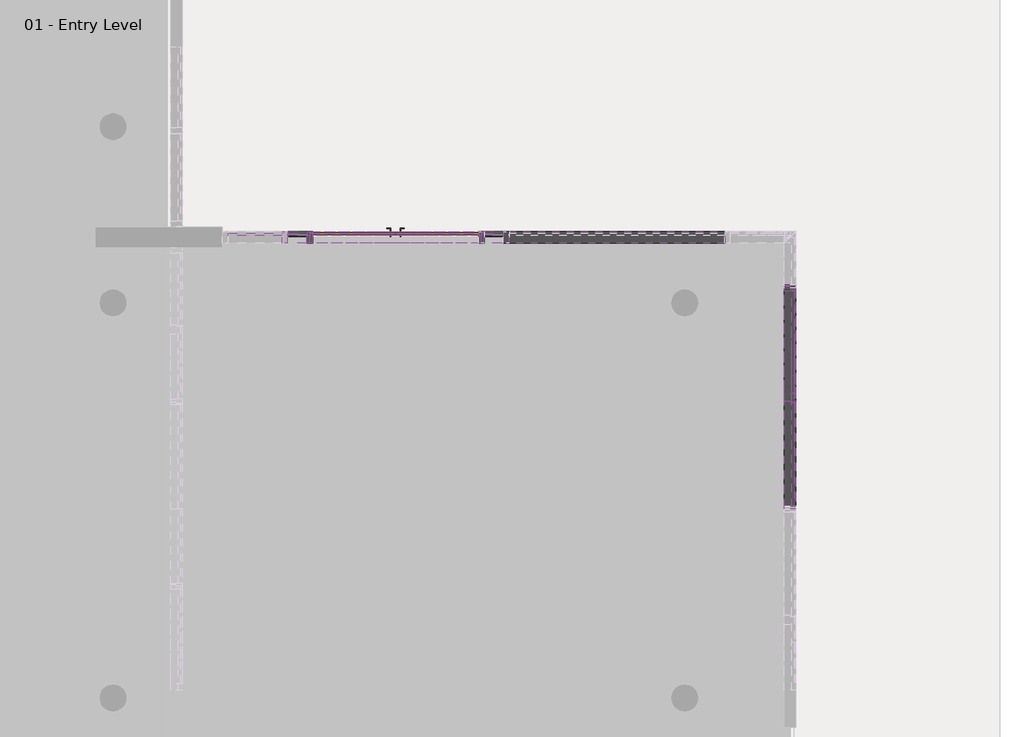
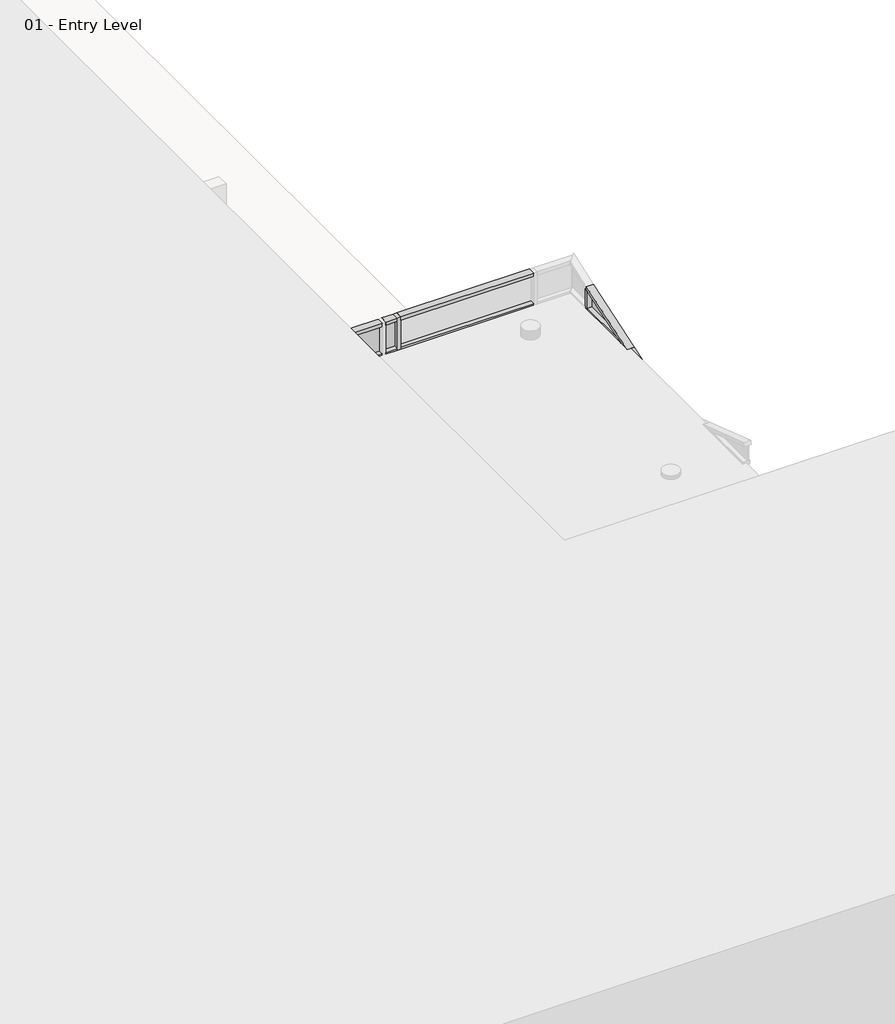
# One storey, part 16 of 35: 94 members, 27 plates, 1 door.
"""IFC4 building model written with IfcOpenShell, lengths in millimetres."""

from ifc_helpers import new_model, si_unit, origin, place, context, project, spatial, transform, mapped, element, save
from components import curtain_wall_dbl_glass_curtain_wall_dbl_glass_a5de0235, member_6e77e263, member_89bfb2f9, member_b2bde9e6, member_5d67b9fc, member_a5966c2a, member_aa396729, member_420b45ef, member_d60e8053, member_51dbde35, member_80bb9b3a, member_75d1e245, member_85cc6aa7, member_474f9ece, member_fce4fd76, member_056e3271, member_2fae0574, member_51170729, system_panel_glazed_1068a10c, system_panel_glazed_a178916c, system_panel_glazed_0805a858, system_panel_glazed_439dd39a, system_panel_glazed_7ab8f380, system_panel_glazed_9c9336f7, system_panel_glazed_ea9774ea, system_panel_glazed_5992a3c5, system_panel_glazed_079f77b7, system_panel_glazed_4e36cd67, system_panel_glazed_43cf15d5

model = new_model("IFC4")

# Units and contexts
model_context = context("Model", 3, world=origin())
ifc_project = project(units=[si_unit("LENGTHUNIT", "METRE", prefix="MILLI")], contexts=[model_context])

# Site, building, storey
site = spatial("IfcSite", under=ifc_project)
building = spatial("IfcBuilding", under=site)
storey = spatial("IfcBuildingStorey", under=building, Name="01 - Entry Level", Elevation=0.0)

# Door
placement = place(None, origin())
curtain_wall_dbl_glass_curtain_wall_dbl_glass_shape = curtain_wall_dbl_glass_curtain_wall_dbl_glass_a5de0235(model_context)
element("IfcDoor", 1, ObjectType="Curtain Wall Dbl Glass : Curtain Wall Dbl Glass", at=placement, inside=storey, context=model_context, shape_type="MappedRepresentation", body=[
    mapped(curtain_wall_dbl_glass_curtain_wall_dbl_glass_shape, transform((19598.7615197, 22545.6, 0.0), x_axis=(-1.0, 0.0, 0.0), y_axis=(0.0, -1.0, 0.0), z_axis=(0.0, 0.0, 1.0))),
])

# Members
member_shape = member_6e77e263(model_context)
element("IfcMember", 2, ObjectType="Rectangular Mullion : 2.5\" x 5\" rectangular", at=placement, inside=storey, context=model_context, shape_type="MappedRepresentation", body=[
    mapped(member_shape, transform((20817.9615197, 22545.6, 0.0), x_axis=(-1.0, 0.0, 0.0), y_axis=(0.0, 1.0, 0.0), z_axis=(0.0, 0.0, -1.0))),
])
element("IfcMember", 3, ObjectType="Rectangular Mullion : 2.5\" x 5\" rectangular", at=placement, inside=storey, context=model_context, shape_type="MappedRepresentation", body=[
    mapped(member_shape, transform((23947.0115197, 21986.8, 0.0), x_axis=(0.0, 1.0, 0.0), y_axis=(1.0, 0.0, 0.0), z_axis=(0.0, 0.0, -1.0))),
])
element("IfcMember", 4, ObjectType="Rectangular Mullion : 2.5\" x 5\" rectangular", at=placement, inside=storey, context=model_context, shape_type="MappedRepresentation", body=[
    mapped(member_shape, transform((20817.9615197, 22545.6, 609.6), x_axis=(-1.0, 0.0, 0.0), y_axis=(0.0, 1.0, 0.0), z_axis=(0.0, 0.0, -1.0))),
])
element("IfcMember", 5, ObjectType="Rectangular Mullion : 2.5\" x 5\" rectangular", at=placement, inside=storey, context=model_context, shape_type="MappedRepresentation", body=[
    mapped(member_shape, transform((20817.9615197, 22545.6, 1219.2), x_axis=(-1.0, 0.0, 0.0), y_axis=(0.0, 1.0, 0.0), z_axis=(0.0, 0.0, -1.0))),
])
element("IfcMember", 6, ObjectType="Rectangular Mullion : 2.5\" x 5\" rectangular", at=placement, inside=storey, context=model_context, shape_type="MappedRepresentation", body=[
    mapped(member_shape, transform((20817.9615197, 22545.6, 2438.4), x_axis=(-1.0, 0.0, 0.0), y_axis=(0.0, 1.0, 0.0), z_axis=(0.0, 0.0, -1.0))),
])
element("IfcMember", 7, ObjectType="Rectangular Mullion : 2.5\" x 5\" rectangular", at=placement, inside=storey, context=model_context, shape_type="MappedRepresentation", body=[
    mapped(member_shape, transform((20817.9615197, 22545.6, 3048.0), x_axis=(-1.0, 0.0, 0.0), y_axis=(0.0, 1.0, 0.0), z_axis=(0.0, 0.0, -1.0))),
])
element("IfcMember", 8, ObjectType="Rectangular Mullion : 2.5\" x 5\" rectangular", at=placement, inside=storey, context=model_context, shape_type="MappedRepresentation", body=[
    mapped(member_shape, transform((23947.0115197, 21986.8, 609.6), x_axis=(0.0, 1.0, 0.0), y_axis=(1.0, 0.0, 0.0), z_axis=(0.0, 0.0, -1.0))),
])
element("IfcMember", 9, ObjectType="Rectangular Mullion : 2.5\" x 5\" rectangular", at=placement, inside=storey, context=model_context, shape_type="MappedRepresentation", body=[
    mapped(member_shape, transform((23947.0115197, 21986.8, 1219.2), x_axis=(0.0, 1.0, 0.0), y_axis=(1.0, 0.0, 0.0), z_axis=(0.0, 0.0, -1.0))),
])
element("IfcMember", 10, ObjectType="Rectangular Mullion : 2.5\" x 5\" rectangular", at=placement, inside=storey, context=model_context, shape_type="MappedRepresentation", body=[
    mapped(member_shape, transform((23947.0115197, 21986.8, 1828.8), x_axis=(0.0, 1.0, 0.0), y_axis=(1.0, 0.0, 0.0), z_axis=(0.0, 0.0, -1.0))),
])
element("IfcMember", 11, ObjectType="Rectangular Mullion : 2.5\" x 5\" rectangular", at=placement, inside=storey, context=model_context, shape_type="MappedRepresentation", body=[
    mapped(member_shape, transform((23947.0115197, 21986.8, 2438.4), x_axis=(0.0, 1.0, 0.0), y_axis=(1.0, 0.0, 0.0), z_axis=(0.0, 0.0, -1.0))),
])
element("IfcMember", 12, ObjectType="Rectangular Mullion : 2.5\" x 5\" rectangular", at=placement, inside=storey, context=model_context, shape_type="MappedRepresentation", body=[
    mapped(member_shape, transform((23947.0115197, 21986.8, 3048.0), x_axis=(0.0, 1.0, 0.0), y_axis=(1.0, 0.0, 0.0), z_axis=(0.0, 0.0, -1.0))),
])
element("IfcMember", 13, ObjectType="Rectangular Mullion : 2.5\" x 5\" rectangular", at=placement, inside=storey, context=model_context, shape_type="MappedRepresentation", body=[
    mapped(member_shape, transform((23947.0115197, 21986.8, 3657.6), x_axis=(0.0, 1.0, 0.0), y_axis=(1.0, 0.0, 0.0), z_axis=(0.0, 0.0, -1.0))),
])
element("IfcMember", 14, ObjectType="Rectangular Mullion : 2.5\" x 5\" rectangular", at=placement, inside=storey, context=model_context, shape_type="MappedRepresentation", body=[
    mapped(member_shape, transform((23947.0115197, 21986.8, 4267.2), x_axis=(0.0, 1.0, 0.0), y_axis=(1.0, 0.0, 0.0), z_axis=(0.0, 0.0, -1.0))),
])
element("IfcMember", 15, ObjectType="Rectangular Mullion : 2.5\" x 5\" rectangular", at=placement, inside=storey, context=model_context, shape_type="MappedRepresentation", body=[
    mapped(member_shape, transform((23947.0115197, 21986.8, 4876.8), x_axis=(0.0, 1.0, 0.0), y_axis=(1.0, 0.0, 0.0), z_axis=(0.0, 0.0, -1.0))),
])
element("IfcMember", 16, ObjectType="Rectangular Mullion : 2.5\" x 5\" rectangular", at=placement, inside=storey, context=model_context, shape_type="MappedRepresentation", body=[
    mapped(member_shape, transform((23947.0115197, 21986.8, 5486.4), x_axis=(0.0, 1.0, 0.0), y_axis=(1.0, 0.0, 0.0), z_axis=(0.0, 0.0, -1.0))),
])
element("IfcMember", 17, ObjectType="Rectangular Mullion : 2.5\" x 5\" rectangular", at=placement, inside=storey, context=model_context, shape_type="MappedRepresentation", body=[
    mapped(member_shape, transform((23947.0115197, 21986.8, 6096.0), x_axis=(0.0, 1.0, 0.0), y_axis=(1.0, 0.0, 0.0), z_axis=(0.0, 0.0, -1.0))),
])
element("IfcMember", 18, ObjectType="Rectangular Mullion : 2.5\" x 5\" rectangular", at=placement, inside=storey, context=model_context, shape_type="MappedRepresentation", body=[
    mapped(member_shape, transform((20817.9615197, 22545.6, 3657.6), x_axis=(-1.0, 0.0, 0.0), y_axis=(0.0, 1.0, 0.0), z_axis=(0.0, 0.0, -1.0))),
])
element("IfcMember", 19, ObjectType="Rectangular Mullion : 2.5\" x 5\" rectangular", at=placement, inside=storey, context=model_context, shape_type="MappedRepresentation", body=[
    mapped(member_shape, transform((20817.9615197, 22545.6, 4267.2), x_axis=(-1.0, 0.0, 0.0), y_axis=(0.0, 1.0, 0.0), z_axis=(0.0, 0.0, -1.0))),
])
element("IfcMember", 20, ObjectType="Rectangular Mullion : 2.5\" x 5\" rectangular", at=placement, inside=storey, context=model_context, shape_type="MappedRepresentation", body=[
    mapped(member_shape, transform((20817.9615197, 22545.6, 4876.8), x_axis=(-1.0, 0.0, 0.0), y_axis=(0.0, 1.0, 0.0), z_axis=(0.0, 0.0, -1.0))),
])
element("IfcMember", 21, ObjectType="Rectangular Mullion : 2.5\" x 5\" rectangular", at=placement, inside=storey, context=model_context, shape_type="MappedRepresentation", body=[
    mapped(member_shape, transform((20817.9615197, 22545.6, 5486.4), x_axis=(-1.0, 0.0, 0.0), y_axis=(0.0, 1.0, 0.0), z_axis=(0.0, 0.0, -1.0))),
])
element("IfcMember", 22, ObjectType="Rectangular Mullion : 2.5\" x 5\" rectangular", at=placement, inside=storey, context=model_context, shape_type="MappedRepresentation", body=[
    mapped(member_shape, transform((20817.9615197, 22545.6, 6096.0), x_axis=(-1.0, 0.0, 0.0), y_axis=(0.0, 1.0, 0.0), z_axis=(0.0, 0.0, -1.0))),
])
element("IfcMember", 23, ObjectType="Rectangular Mullion : 2.5\" x 5\" rectangular", at=placement, inside=storey, context=model_context, shape_type="MappedRepresentation", body=[
    mapped(member_shape, transform((18379.5615197, 22545.6, 3657.6), x_axis=(-1.0, 0.0, 0.0), y_axis=(0.0, 1.0, 0.0), z_axis=(0.0, 0.0, -1.0))),
])
element("IfcMember", 24, ObjectType="Rectangular Mullion : 2.5\" x 5\" rectangular", at=placement, inside=storey, context=model_context, shape_type="MappedRepresentation", body=[
    mapped(member_shape, transform((18379.5615197, 22545.6, 4267.2), x_axis=(-1.0, 0.0, 0.0), y_axis=(0.0, 1.0, 0.0), z_axis=(0.0, 0.0, -1.0))),
])
element("IfcMember", 25, ObjectType="Rectangular Mullion : 2.5\" x 5\" rectangular", at=placement, inside=storey, context=model_context, shape_type="MappedRepresentation", body=[
    mapped(member_shape, transform((18379.5615197, 22545.6, 4876.8), x_axis=(-1.0, 0.0, 0.0), y_axis=(0.0, 1.0, 0.0), z_axis=(0.0, 0.0, -1.0))),
])
element("IfcMember", 26, ObjectType="Rectangular Mullion : 2.5\" x 5\" rectangular", at=placement, inside=storey, context=model_context, shape_type="MappedRepresentation", body=[
    mapped(member_shape, transform((18379.5615197, 22545.6, 5486.4), x_axis=(-1.0, 0.0, 0.0), y_axis=(0.0, 1.0, 0.0), z_axis=(0.0, 0.0, -1.0))),
])
element("IfcMember", 27, ObjectType="Rectangular Mullion : 2.5\" x 5\" rectangular", at=placement, inside=storey, context=model_context, shape_type="MappedRepresentation", body=[
    mapped(member_shape, transform((18379.5615197, 22545.6, 6096.0), x_axis=(-1.0, 0.0, 0.0), y_axis=(0.0, 1.0, 0.0), z_axis=(0.0, 0.0, -1.0))),
])
member_2_shape = member_89bfb2f9(model_context)
element("IfcMember", 28, ObjectType="Rectangular Mullion : 2.5\" x 5\" rectangular", at=placement, inside=storey, context=model_context, shape_type="MappedRepresentation", body=[
    mapped(member_2_shape, transform((20849.7115197, 22545.6, 609.6), x_axis=(0.0, 0.0, 1.0), y_axis=(0.0, 1.0, 0.0), z_axis=(-1.0, 0.0, 0.0))),
])
element("IfcMember", 29, ObjectType="Rectangular Mullion : 2.5\" x 5\" rectangular", at=placement, inside=storey, context=model_context, shape_type="MappedRepresentation", body=[
    mapped(member_2_shape, transform((20849.7115197, 22545.6, 1219.2), x_axis=(0.0, 0.0, 1.0), y_axis=(0.0, 1.0, 0.0), z_axis=(-1.0, 0.0, 0.0))),
])
element("IfcMember", 30, ObjectType="Rectangular Mullion : 2.5\" x 5\" rectangular", at=placement, inside=storey, context=model_context, shape_type="MappedRepresentation", body=[
    mapped(member_2_shape, transform((20849.7115197, 22545.6, 1828.8), x_axis=(0.0, 0.0, 1.0), y_axis=(0.0, 1.0, 0.0), z_axis=(-1.0, 0.0, 0.0))),
])
element("IfcMember", 31, ObjectType="Rectangular Mullion : 2.5\" x 5\" rectangular", at=placement, inside=storey, context=model_context, shape_type="MappedRepresentation", body=[
    mapped(member_2_shape, transform((20849.7115197, 22545.6, 2438.4), x_axis=(0.0, 0.0, 1.0), y_axis=(0.0, 1.0, 0.0), z_axis=(-1.0, 0.0, 0.0))),
])
element("IfcMember", 32, ObjectType="Rectangular Mullion : 2.5\" x 5\" rectangular", at=placement, inside=storey, context=model_context, shape_type="MappedRepresentation", body=[
    mapped(member_2_shape, transform((20849.7115197, 22545.6, 3048.0), x_axis=(0.0, 0.0, 1.0), y_axis=(0.0, 1.0, 0.0), z_axis=(-1.0, 0.0, 0.0))),
])
element("IfcMember", 33, ObjectType="Rectangular Mullion : 2.5\" x 5\" rectangular", at=placement, inside=storey, context=model_context, shape_type="MappedRepresentation", body=[
    mapped(member_2_shape, transform((23947.0115197, 21955.05, 609.6), x_axis=(0.0, 0.0, 1.0), y_axis=(1.0, 0.0, 0.0), z_axis=(0.0, 1.0, 0.0))),
])
element("IfcMember", 34, ObjectType="Rectangular Mullion : 2.5\" x 5\" rectangular", at=placement, inside=storey, context=model_context, shape_type="MappedRepresentation", body=[
    mapped(member_2_shape, transform((23947.0115197, 21955.05, 1219.2), x_axis=(0.0, 0.0, 1.0), y_axis=(1.0, 0.0, 0.0), z_axis=(0.0, 1.0, 0.0))),
])
element("IfcMember", 35, ObjectType="Rectangular Mullion : 2.5\" x 5\" rectangular", at=placement, inside=storey, context=model_context, shape_type="MappedRepresentation", body=[
    mapped(member_2_shape, transform((23947.0115197, 21955.05, 1828.8), x_axis=(0.0, 0.0, 1.0), y_axis=(1.0, 0.0, 0.0), z_axis=(0.0, 1.0, 0.0))),
])
element("IfcMember", 36, ObjectType="Rectangular Mullion : 2.5\" x 5\" rectangular", at=placement, inside=storey, context=model_context, shape_type="MappedRepresentation", body=[
    mapped(member_2_shape, transform((23947.0115197, 21955.05, 2438.4), x_axis=(0.0, 0.0, 1.0), y_axis=(1.0, 0.0, 0.0), z_axis=(0.0, 1.0, 0.0))),
])
element("IfcMember", 37, ObjectType="Rectangular Mullion : 2.5\" x 5\" rectangular", at=placement, inside=storey, context=model_context, shape_type="MappedRepresentation", body=[
    mapped(member_2_shape, transform((23947.0115197, 21955.05, 3048.0), x_axis=(0.0, 0.0, 1.0), y_axis=(1.0, 0.0, 0.0), z_axis=(0.0, 1.0, 0.0))),
])
element("IfcMember", 38, ObjectType="Rectangular Mullion : 2.5\" x 5\" rectangular", at=placement, inside=storey, context=model_context, shape_type="MappedRepresentation", body=[
    mapped(member_2_shape, transform((23947.0115197, 21955.05, 3657.6), x_axis=(0.0, 0.0, 1.0), y_axis=(1.0, 0.0, 0.0), z_axis=(0.0, 1.0, 0.0))),
])
element("IfcMember", 39, ObjectType="Rectangular Mullion : 2.5\" x 5\" rectangular", at=placement, inside=storey, context=model_context, shape_type="MappedRepresentation", body=[
    mapped(member_2_shape, transform((23947.0115197, 21955.05, 4267.2), x_axis=(0.0, 0.0, 1.0), y_axis=(1.0, 0.0, 0.0), z_axis=(0.0, 1.0, 0.0))),
])
element("IfcMember", 40, ObjectType="Rectangular Mullion : 2.5\" x 5\" rectangular", at=placement, inside=storey, context=model_context, shape_type="MappedRepresentation", body=[
    mapped(member_2_shape, transform((23947.0115197, 21955.05, 4876.8), x_axis=(0.0, 0.0, 1.0), y_axis=(1.0, 0.0, 0.0), z_axis=(0.0, 1.0, 0.0))),
])
element("IfcMember", 41, ObjectType="Rectangular Mullion : 2.5\" x 5\" rectangular", at=placement, inside=storey, context=model_context, shape_type="MappedRepresentation", body=[
    mapped(member_2_shape, transform((23947.0115197, 21955.05, 5486.4), x_axis=(0.0, 0.0, 1.0), y_axis=(1.0, 0.0, 0.0), z_axis=(0.0, 1.0, 0.0))),
])
element("IfcMember", 42, ObjectType="Rectangular Mullion : 2.5\" x 5\" rectangular", at=placement, inside=storey, context=model_context, shape_type="MappedRepresentation", body=[
    mapped(member_2_shape, transform((23947.0115197, 21955.05, 6096.0), x_axis=(0.0, 0.0, 1.0), y_axis=(1.0, 0.0, 0.0), z_axis=(0.0, 1.0, 0.0))),
])
element("IfcMember", 43, ObjectType="Rectangular Mullion : 2.5\" x 5\" rectangular", at=placement, inside=storey, context=model_context, shape_type="MappedRepresentation", body=[
    mapped(member_2_shape, transform((20849.7115197, 22545.6, 3657.6), x_axis=(0.0, 0.0, 1.0), y_axis=(0.0, 1.0, 0.0), z_axis=(-1.0, 0.0, 0.0))),
])
element("IfcMember", 44, ObjectType="Rectangular Mullion : 2.5\" x 5\" rectangular", at=placement, inside=storey, context=model_context, shape_type="MappedRepresentation", body=[
    mapped(member_2_shape, transform((20849.7115197, 22545.6, 4267.2), x_axis=(0.0, 0.0, 1.0), y_axis=(0.0, 1.0, 0.0), z_axis=(-1.0, 0.0, 0.0))),
])
element("IfcMember", 45, ObjectType="Rectangular Mullion : 2.5\" x 5\" rectangular", at=placement, inside=storey, context=model_context, shape_type="MappedRepresentation", body=[
    mapped(member_2_shape, transform((20849.7115197, 22545.6, 4876.8), x_axis=(0.0, 0.0, 1.0), y_axis=(0.0, 1.0, 0.0), z_axis=(-1.0, 0.0, 0.0))),
])
element("IfcMember", 46, ObjectType="Rectangular Mullion : 2.5\" x 5\" rectangular", at=placement, inside=storey, context=model_context, shape_type="MappedRepresentation", body=[
    mapped(member_2_shape, transform((20849.7115197, 22545.6, 5486.4), x_axis=(0.0, 0.0, 1.0), y_axis=(0.0, 1.0, 0.0), z_axis=(-1.0, 0.0, 0.0))),
])
element("IfcMember", 47, ObjectType="Rectangular Mullion : 2.5\" x 5\" rectangular", at=placement, inside=storey, context=model_context, shape_type="MappedRepresentation", body=[
    mapped(member_2_shape, transform((20849.7115197, 22545.6, 6096.0), x_axis=(0.0, 0.0, 1.0), y_axis=(0.0, 1.0, 0.0), z_axis=(-1.0, 0.0, 0.0))),
])
element("IfcMember", 48, ObjectType="Rectangular Mullion : 2.5\" x 5\" rectangular", at=placement, inside=storey, context=model_context, shape_type="MappedRepresentation", body=[
    mapped(member_2_shape, transform((20849.7115197, 22545.6, 6705.6), x_axis=(0.0, 0.0, 1.0), y_axis=(0.0, 1.0, 0.0), z_axis=(-1.0, 0.0, 0.0))),
])
member_3_shape = member_b2bde9e6(model_context)
element("IfcMember", 49, ObjectType="Rectangular Mullion : 2.5\" x 5\" rectangular", at=placement, inside=storey, context=model_context, shape_type="MappedRepresentation", body=[
    mapped(member_3_shape, transform((20849.7115197, 22545.6, 7315.2), x_axis=(0.0, 0.0, 1.0), y_axis=(0.0, 1.0, 0.0), z_axis=(-1.0, 0.0, 0.0))),
])
member_4_shape = member_5d67b9fc(model_context)
element("IfcMember", 50, ObjectType="Rectangular Mullion : 2.5\" x 5\" rectangular", at=placement, inside=storey, context=model_context, shape_type="MappedRepresentation", body=[
    mapped(member_4_shape, transform((18379.5615197, 22545.6, 2165.35), x_axis=(-1.0, 0.0, 0.0), y_axis=(0.0, 1.0, 0.0), z_axis=(0.0, 0.0, -1.0))),
])
member_5_shape = member_a5966c2a(model_context)
element("IfcMember", 51, ObjectType="Rectangular Mullion : 2.5\" x 5\" rectangular", at=placement, inside=storey, context=model_context, shape_type="MappedRepresentation", body=[
    mapped(member_5_shape, transform((20576.6615197, 22545.6, 2438.4), x_axis=(0.0, 0.0, 1.0), y_axis=(0.0, 1.0, 0.0), z_axis=(-1.0, 0.0, 0.0))),
])
element("IfcMember", 52, ObjectType="Rectangular Mullion : 2.5\" x 5\" rectangular", at=placement, inside=storey, context=model_context, shape_type="MappedRepresentation", body=[
    mapped(member_5_shape, transform((20576.6615197, 22545.6, 6705.6), x_axis=(0.0, 0.0, 1.0), y_axis=(0.0, 1.0, 0.0), z_axis=(-1.0, 0.0, 0.0))),
])
element("IfcMember", 53, ObjectType="Rectangular Mullion : 2.5\" x 5\" rectangular", at=placement, inside=storey, context=model_context, shape_type="MappedRepresentation", body=[
    mapped(member_5_shape, transform((18411.3115197, 22545.6, 2438.4), x_axis=(0.0, 0.0, 1.0), y_axis=(0.0, 1.0, 0.0), z_axis=(-1.0, 0.0, 0.0))),
])
element("IfcMember", 54, ObjectType="Rectangular Mullion : 2.5\" x 5\" rectangular", at=placement, inside=storey, context=model_context, shape_type="MappedRepresentation", body=[
    mapped(member_5_shape, transform((18411.3115197, 22545.6, 6705.6), x_axis=(0.0, 0.0, 1.0), y_axis=(0.0, 1.0, 0.0), z_axis=(-1.0, 0.0, 0.0))),
])
member_6_shape = member_aa396729(model_context)
element("IfcMember", 55, ObjectType="Rectangular Mullion : 2.5\" x 5\" rectangular", at=placement, inside=storey, context=model_context, shape_type="MappedRepresentation", body=[
    mapped(member_6_shape, transform((20544.9115197, 22545.6, 3048.0), x_axis=(0.0, 0.0, 1.0), y_axis=(0.0, 1.0, 0.0), z_axis=(-1.0, 0.0, 0.0))),
])
element("IfcMember", 56, ObjectType="Rectangular Mullion : 2.5\" x 5\" rectangular", at=placement, inside=storey, context=model_context, shape_type="MappedRepresentation", body=[
    mapped(member_6_shape, transform((20544.9115197, 22545.6, 3657.6), x_axis=(0.0, 0.0, 1.0), y_axis=(0.0, 1.0, 0.0), z_axis=(-1.0, 0.0, 0.0))),
])
element("IfcMember", 57, ObjectType="Rectangular Mullion : 2.5\" x 5\" rectangular", at=placement, inside=storey, context=model_context, shape_type="MappedRepresentation", body=[
    mapped(member_6_shape, transform((20544.9115197, 22545.6, 4267.2), x_axis=(0.0, 0.0, 1.0), y_axis=(0.0, 1.0, 0.0), z_axis=(-1.0, 0.0, 0.0))),
])
element("IfcMember", 58, ObjectType="Rectangular Mullion : 2.5\" x 5\" rectangular", at=placement, inside=storey, context=model_context, shape_type="MappedRepresentation", body=[
    mapped(member_6_shape, transform((20544.9115197, 22545.6, 4876.8), x_axis=(0.0, 0.0, 1.0), y_axis=(0.0, 1.0, 0.0), z_axis=(-1.0, 0.0, 0.0))),
])
element("IfcMember", 59, ObjectType="Rectangular Mullion : 2.5\" x 5\" rectangular", at=placement, inside=storey, context=model_context, shape_type="MappedRepresentation", body=[
    mapped(member_6_shape, transform((20544.9115197, 22545.6, 5486.4), x_axis=(0.0, 0.0, 1.0), y_axis=(0.0, 1.0, 0.0), z_axis=(-1.0, 0.0, 0.0))),
])
element("IfcMember", 60, ObjectType="Rectangular Mullion : 2.5\" x 5\" rectangular", at=placement, inside=storey, context=model_context, shape_type="MappedRepresentation", body=[
    mapped(member_6_shape, transform((20544.9115197, 22545.6, 6096.0), x_axis=(0.0, 0.0, 1.0), y_axis=(0.0, 1.0, 0.0), z_axis=(-1.0, 0.0, 0.0))),
])
member_7_shape = member_420b45ef(model_context)
element("IfcMember", 61, ObjectType="Rectangular Mullion : 2.5\" x 5\" rectangular", at=placement, inside=storey, context=model_context, shape_type="MappedRepresentation", body=[
    mapped(member_7_shape, transform((20786.2115197, 22545.6, 0.0), x_axis=(0.0, 0.0, -1.0), y_axis=(0.0, 1.0, 0.0), z_axis=(1.0, 0.0, 0.0))),
])
element("IfcMember", 62, ObjectType="Rectangular Mullion : 2.5\" x 5\" rectangular", at=placement, inside=storey, context=model_context, shape_type="MappedRepresentation", body=[
    mapped(member_7_shape, transform((18620.8615197, 22545.6, 0.0), x_axis=(0.0, 0.0, -1.0), y_axis=(0.0, 1.0, 0.0), z_axis=(1.0, 0.0, 0.0))),
])
element("IfcMember", 63, ObjectType="Rectangular Mullion : 2.5\" x 5\" rectangular", at=placement, inside=storey, context=model_context, shape_type="MappedRepresentation", body=[
    mapped(member_6_shape, transform((18411.3115197, 22545.6, 3048.0), x_axis=(0.0, 0.0, 1.0), y_axis=(0.0, 1.0, 0.0), z_axis=(-1.0, 0.0, 0.0))),
])
element("IfcMember", 64, ObjectType="Rectangular Mullion : 2.5\" x 5\" rectangular", at=placement, inside=storey, context=model_context, shape_type="MappedRepresentation", body=[
    mapped(member_6_shape, transform((18411.3115197, 22545.6, 3657.6), x_axis=(0.0, 0.0, 1.0), y_axis=(0.0, 1.0, 0.0), z_axis=(-1.0, 0.0, 0.0))),
])
element("IfcMember", 65, ObjectType="Rectangular Mullion : 2.5\" x 5\" rectangular", at=placement, inside=storey, context=model_context, shape_type="MappedRepresentation", body=[
    mapped(member_6_shape, transform((18411.3115197, 22545.6, 4267.2), x_axis=(0.0, 0.0, 1.0), y_axis=(0.0, 1.0, 0.0), z_axis=(-1.0, 0.0, 0.0))),
])
element("IfcMember", 66, ObjectType="Rectangular Mullion : 2.5\" x 5\" rectangular", at=placement, inside=storey, context=model_context, shape_type="MappedRepresentation", body=[
    mapped(member_6_shape, transform((18411.3115197, 22545.6, 4876.8), x_axis=(0.0, 0.0, 1.0), y_axis=(0.0, 1.0, 0.0), z_axis=(-1.0, 0.0, 0.0))),
])
element("IfcMember", 67, ObjectType="Rectangular Mullion : 2.5\" x 5\" rectangular", at=placement, inside=storey, context=model_context, shape_type="MappedRepresentation", body=[
    mapped(member_6_shape, transform((18411.3115197, 22545.6, 5486.4), x_axis=(0.0, 0.0, 1.0), y_axis=(0.0, 1.0, 0.0), z_axis=(-1.0, 0.0, 0.0))),
])
element("IfcMember", 68, ObjectType="Rectangular Mullion : 2.5\" x 5\" rectangular", at=placement, inside=storey, context=model_context, shape_type="MappedRepresentation", body=[
    mapped(member_6_shape, transform((18411.3115197, 22545.6, 6096.0), x_axis=(0.0, 0.0, 1.0), y_axis=(0.0, 1.0, 0.0), z_axis=(-1.0, 0.0, 0.0))),
])
member_8_shape = member_d60e8053(model_context)
element("IfcMember", 69, ObjectType="Rectangular Mullion : 2.5\" x 5\" rectangular", at=placement, inside=storey, context=model_context, shape_type="MappedRepresentation", body=[
    mapped(member_8_shape, transform((18684.3615197, 22545.6, 2438.4), x_axis=(0.0, 0.0, 1.0), y_axis=(0.0, 1.0, 0.0), z_axis=(-1.0, 0.0, 0.0))),
])
element("IfcMember", 70, ObjectType="Rectangular Mullion : 2.5\" x 5\" rectangular", at=placement, inside=storey, context=model_context, shape_type="MappedRepresentation", body=[
    mapped(member_8_shape, transform((18684.3615197, 22545.6, 6705.6), x_axis=(0.0, 0.0, 1.0), y_axis=(0.0, 1.0, 0.0), z_axis=(-1.0, 0.0, 0.0))),
])
element("IfcMember", 71, ObjectType="Rectangular Mullion : 2.5\" x 5\" rectangular", at=placement, inside=storey, context=model_context, shape_type="MappedRepresentation", body=[
    mapped(member_8_shape, transform((18684.3615197, 22545.6, 2165.35), x_axis=(0.0, 0.0, 1.0), y_axis=(0.0, 1.0, 0.0), z_axis=(-1.0, 0.0, 0.0))),
])
member_9_shape = member_51dbde35(model_context)
element("IfcMember", 72, ObjectType="Rectangular Mullion : 2.5\" x 5\" rectangular", at=placement, inside=storey, context=model_context, shape_type="MappedRepresentation", body=[
    mapped(member_9_shape, transform((18652.6115197, 22545.6, 3048.0), x_axis=(0.0, 0.0, 1.0), y_axis=(0.0, 1.0, 0.0), z_axis=(-1.0, 0.0, 0.0))),
])
element("IfcMember", 73, ObjectType="Rectangular Mullion : 2.5\" x 5\" rectangular", at=placement, inside=storey, context=model_context, shape_type="MappedRepresentation", body=[
    mapped(member_9_shape, transform((18652.6115197, 22545.6, 3657.6), x_axis=(0.0, 0.0, 1.0), y_axis=(0.0, 1.0, 0.0), z_axis=(-1.0, 0.0, 0.0))),
])
element("IfcMember", 74, ObjectType="Rectangular Mullion : 2.5\" x 5\" rectangular", at=placement, inside=storey, context=model_context, shape_type="MappedRepresentation", body=[
    mapped(member_9_shape, transform((18652.6115197, 22545.6, 4267.2), x_axis=(0.0, 0.0, 1.0), y_axis=(0.0, 1.0, 0.0), z_axis=(-1.0, 0.0, 0.0))),
])
element("IfcMember", 75, ObjectType="Rectangular Mullion : 2.5\" x 5\" rectangular", at=placement, inside=storey, context=model_context, shape_type="MappedRepresentation", body=[
    mapped(member_9_shape, transform((18652.6115197, 22545.6, 4876.8), x_axis=(0.0, 0.0, 1.0), y_axis=(0.0, 1.0, 0.0), z_axis=(-1.0, 0.0, 0.0))),
])
element("IfcMember", 76, ObjectType="Rectangular Mullion : 2.5\" x 5\" rectangular", at=placement, inside=storey, context=model_context, shape_type="MappedRepresentation", body=[
    mapped(member_9_shape, transform((18652.6115197, 22545.6, 5486.4), x_axis=(0.0, 0.0, 1.0), y_axis=(0.0, 1.0, 0.0), z_axis=(-1.0, 0.0, 0.0))),
])
element("IfcMember", 77, ObjectType="Rectangular Mullion : 2.5\" x 5\" rectangular", at=placement, inside=storey, context=model_context, shape_type="MappedRepresentation", body=[
    mapped(member_9_shape, transform((18652.6115197, 22545.6, 6096.0), x_axis=(0.0, 0.0, 1.0), y_axis=(0.0, 1.0, 0.0), z_axis=(-1.0, 0.0, 0.0))),
])
element("IfcMember", 78, ObjectType="Rectangular Mullion : 2.5\" x 5\" rectangular", at=placement, inside=storey, context=model_context, shape_type="MappedRepresentation", body=[
    mapped(member_shape, transform((20544.9115197, 22545.6, 609.6), x_axis=(-1.0, 0.0, 0.0), y_axis=(0.0, 1.0, 0.0), z_axis=(0.0, 0.0, -1.0))),
])
element("IfcMember", 79, ObjectType="Rectangular Mullion : 2.5\" x 5\" rectangular", at=placement, inside=storey, context=model_context, shape_type="MappedRepresentation", body=[
    mapped(member_shape, transform((20544.9115197, 22545.6, 1219.2), x_axis=(-1.0, 0.0, 0.0), y_axis=(0.0, 1.0, 0.0), z_axis=(0.0, 0.0, -1.0))),
])
element("IfcMember", 80, ObjectType="Rectangular Mullion : 2.5\" x 5\" rectangular", at=placement, inside=storey, context=model_context, shape_type="MappedRepresentation", body=[
    mapped(member_shape, transform((18652.6115197, 22545.6, 609.6), x_axis=(-1.0, 0.0, 0.0), y_axis=(0.0, 1.0, 0.0), z_axis=(0.0, 0.0, -1.0))),
])
element("IfcMember", 81, ObjectType="Rectangular Mullion : 2.5\" x 5\" rectangular", at=placement, inside=storey, context=model_context, shape_type="MappedRepresentation", body=[
    mapped(member_shape, transform((18652.6115197, 22545.6, 1219.2), x_axis=(-1.0, 0.0, 0.0), y_axis=(0.0, 1.0, 0.0), z_axis=(0.0, 0.0, -1.0))),
])
element("IfcMember", 82, ObjectType="Rectangular Mullion : 2.5\" x 5\" rectangular", at=placement, inside=storey, context=model_context, shape_type="MappedRepresentation", body=[
    mapped(member_shape, transform((20544.9115197, 22545.6, 0.0), x_axis=(-1.0, 0.0, 0.0), y_axis=(0.0, 1.0, 0.0), z_axis=(0.0, 0.0, -1.0))),
])
element("IfcMember", 83, ObjectType="Rectangular Mullion : 2.5\" x 5\" rectangular", at=placement, inside=storey, context=model_context, shape_type="MappedRepresentation", body=[
    mapped(member_shape, transform((18652.6115197, 22545.6, 0.0), x_axis=(-1.0, 0.0, 0.0), y_axis=(0.0, 1.0, 0.0), z_axis=(0.0, 0.0, -1.0))),
])
member_10_shape = member_80bb9b3a(model_context)
element("IfcMember", 84, ObjectType="Rectangular Mullion : 2.5\" x 5\" rectangular", at=placement, inside=storey, context=model_context, shape_type="MappedRepresentation", body=[
    mapped(member_10_shape, transform((20817.9615197, 22545.6, 1828.8), x_axis=(-1.0, 0.0, 0.0), y_axis=(0.0, 1.0, 0.0), z_axis=(0.0, 0.0, -1.0))),
])
element("IfcMember", 85, ObjectType="Rectangular Mullion : 2.5\" x 5\" rectangular", at=placement, inside=storey, context=model_context, shape_type="MappedRepresentation", body=[
    mapped(member_10_shape, transform((18652.6115197, 22545.6, 1828.8), x_axis=(-1.0, 0.0, 0.0), y_axis=(0.0, 1.0, 0.0), z_axis=(0.0, 0.0, -1.0))),
])
member_11_shape = member_75d1e245(model_context)
element("IfcMember", 86, ObjectType="Rectangular Mullion : 2.5\" x 5\" rectangular", at=placement, inside=storey, context=model_context, shape_type="MappedRepresentation", body=[
    mapped(member_11_shape, transform((18652.6115197, 22545.6, 2165.35), x_axis=(-1.0, 0.0, 0.0), y_axis=(0.0, 1.0, 0.0), z_axis=(0.0, 0.0, -1.0))),
])
member_12_shape = member_85cc6aa7(model_context)
element("IfcMember", 87, ObjectType="Rectangular Mullion : 2.5\" x 5\" rectangular", at=placement, inside=storey, context=model_context, shape_type="MappedRepresentation", body=[
    mapped(member_12_shape, transform((23947.0115197, 20716.8, 6705.6), x_axis=(0.0, -0.3162277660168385, 0.9486832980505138), y_axis=(1.0, 0.0, 0.0), z_axis=(0.0, 0.9486832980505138, 0.3162277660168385))),
])
member_13_shape = member_474f9ece(model_context)
element("IfcMember", 88, ObjectType="Rectangular Mullion : 2.5\" x 5\" rectangular", at=placement, inside=storey, context=model_context, shape_type="MappedRepresentation", body=[
    mapped(member_13_shape, transform((23947.0115197, 21955.05, 6705.6), x_axis=(0.0, 0.0, 1.0), y_axis=(1.0, 0.0, 0.0), z_axis=(0.0, 1.0, 0.0))),
])
member_14_shape = member_fce4fd76(model_context)
element("IfcMember", 89, ObjectType="Rectangular Mullion : 2.5\" x 5\" rectangular", at=placement, inside=storey, context=model_context, shape_type="MappedRepresentation", body=[
    mapped(member_14_shape, transform((23947.0115197, 21986.8, 7128.9333333), x_axis=(0.0, -0.3162277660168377, 0.948683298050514), y_axis=(1.0, 0.0, 0.0), z_axis=(0.0, 0.948683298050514, 0.3162277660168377))),
])
member_15_shape = member_056e3271(model_context)
element("IfcMember", 90, ObjectType="Rectangular Mullion : 2.5\" x 5\" rectangular", at=placement, inside=storey, context=model_context, shape_type="MappedRepresentation", body=[
    mapped(member_15_shape, transform((23947.0115197, 21986.8, 6705.6), x_axis=(0.0, 1.0, 0.0), y_axis=(1.0, 0.0, 0.0), z_axis=(0.0, 0.0, -1.0))),
])
element("IfcMember", 91, ObjectType="Rectangular Mullion : 2.5\" x 5\" rectangular", at=placement, inside=storey, context=model_context, shape_type="MappedRepresentation", body=[
    mapped(member_shape, transform((20817.9615197, 22545.6, 6705.6), x_axis=(-1.0, 0.0, 0.0), y_axis=(0.0, 1.0, 0.0), z_axis=(0.0, 0.0, -1.0))),
])
element("IfcMember", 92, ObjectType="Rectangular Mullion : 2.5\" x 5\" rectangular", at=placement, inside=storey, context=model_context, shape_type="MappedRepresentation", body=[
    mapped(member_shape, transform((18379.5615197, 22545.6, 6705.6), x_axis=(-1.0, 0.0, 0.0), y_axis=(0.0, 1.0, 0.0), z_axis=(0.0, 0.0, -1.0))),
])
element("IfcMember", 93, ObjectType="Rectangular Mullion : 2.5\" x 5\" rectangular", at=placement, inside=storey, context=model_context, shape_type="MappedRepresentation", body=[
    mapped(member_7_shape, transform((20576.6615197, 22545.6, 7315.2), x_axis=(0.0, 0.0, 1.0), y_axis=(0.0, 1.0, 0.0), z_axis=(-1.0, 0.0, 0.0))),
])
member_16_shape = member_2fae0574(model_context)
element("IfcMember", 94, ObjectType="Rectangular Mullion : 2.5\" x 5\" rectangular", at=placement, inside=storey, context=model_context, shape_type="MappedRepresentation", body=[
    mapped(member_16_shape, transform((18684.3615197, 22545.6, 7315.2), x_axis=(0.0, 0.0, 1.0), y_axis=(0.0, 1.0, 0.0), z_axis=(-1.0, 0.0, 0.0))),
])
member_17_shape = member_51170729(model_context)
element("IfcMember", 95, ObjectType="Rectangular Mullion : 2.5\" x 5\" rectangular", at=placement, inside=storey, context=model_context, shape_type="MappedRepresentation", body=[
    mapped(member_17_shape, transform((18652.6115197, 22545.6, 6673.85), x_axis=(-1.0, 0.0, 0.0), y_axis=(0.0, 1.0, 0.0), z_axis=(0.0, 0.0, -1.0))),
])

# Plates
system_panel_glazed_shape = system_panel_glazed_1068a10c(model_context)
element("IfcPlate", 96, ObjectType="System Panel : Glazed", at=placement, inside=storey, context=model_context, shape_type="MappedRepresentation", body=[
    mapped(system_panel_glazed_shape, transform((23947.0115197, 20767.6, 63.5), x_axis=(0.0, 1.0, 0.0), y_axis=(-1.0, 0.0, 0.0), z_axis=(0.0, 0.0, 1.0))),
])
system_panel_glazed_2_shape = system_panel_glazed_a178916c(model_context)
element("IfcPlate", 97, ObjectType="System Panel : Glazed", at=placement, inside=storey, context=model_context, shape_type="MappedRepresentation", body=[
    mapped(system_panel_glazed_2_shape, transform((23947.0115197, 20767.6, 641.35), x_axis=(0.0, 1.0, 0.0), y_axis=(-1.0, 0.0, 0.0), z_axis=(0.0, 0.0, 1.0))),
])
element("IfcPlate", 98, ObjectType="System Panel : Glazed", at=placement, inside=storey, context=model_context, shape_type="MappedRepresentation", body=[
    mapped(system_panel_glazed_2_shape, transform((23947.0115197, 20767.6, 1250.95), x_axis=(0.0, 1.0, 0.0), y_axis=(-1.0, 0.0, 0.0), z_axis=(0.0, 0.0, 1.0))),
])
element("IfcPlate", 99, ObjectType="System Panel : Glazed", at=placement, inside=storey, context=model_context, shape_type="MappedRepresentation", body=[
    mapped(system_panel_glazed_2_shape, transform((23947.0115197, 20767.6, 1860.55), x_axis=(0.0, 1.0, 0.0), y_axis=(-1.0, 0.0, 0.0), z_axis=(0.0, 0.0, 1.0))),
])
element("IfcPlate", 100, ObjectType="System Panel : Glazed", at=placement, inside=storey, context=model_context, shape_type="MappedRepresentation", body=[
    mapped(system_panel_glazed_2_shape, transform((23947.0115197, 20767.6, 2470.15), x_axis=(0.0, 1.0, 0.0), y_axis=(-1.0, 0.0, 0.0), z_axis=(0.0, 0.0, 1.0))),
])
element("IfcPlate", 101, ObjectType="System Panel : Glazed", at=placement, inside=storey, context=model_context, shape_type="MappedRepresentation", body=[
    mapped(system_panel_glazed_2_shape, transform((23947.0115197, 20767.6, 3079.75), x_axis=(0.0, 1.0, 0.0), y_axis=(-1.0, 0.0, 0.0), z_axis=(0.0, 0.0, 1.0))),
])
element("IfcPlate", 102, ObjectType="System Panel : Glazed", at=placement, inside=storey, context=model_context, shape_type="MappedRepresentation", body=[
    mapped(system_panel_glazed_2_shape, transform((23947.0115197, 20767.6, 3689.35), x_axis=(0.0, 1.0, 0.0), y_axis=(-1.0, 0.0, 0.0), z_axis=(0.0, 0.0, 1.0))),
])
element("IfcPlate", 103, ObjectType="System Panel : Glazed", at=placement, inside=storey, context=model_context, shape_type="MappedRepresentation", body=[
    mapped(system_panel_glazed_2_shape, transform((23947.0115197, 20767.6, 4298.95), x_axis=(0.0, 1.0, 0.0), y_axis=(-1.0, 0.0, 0.0), z_axis=(0.0, 0.0, 1.0))),
])
element("IfcPlate", 104, ObjectType="System Panel : Glazed", at=placement, inside=storey, context=model_context, shape_type="MappedRepresentation", body=[
    mapped(system_panel_glazed_2_shape, transform((23947.0115197, 20767.6, 4908.55), x_axis=(0.0, 1.0, 0.0), y_axis=(-1.0, 0.0, 0.0), z_axis=(0.0, 0.0, 1.0))),
])
element("IfcPlate", 105, ObjectType="System Panel : Glazed", at=placement, inside=storey, context=model_context, shape_type="MappedRepresentation", body=[
    mapped(system_panel_glazed_2_shape, transform((23947.0115197, 20767.6, 5518.15), x_axis=(0.0, 1.0, 0.0), y_axis=(-1.0, 0.0, 0.0), z_axis=(0.0, 0.0, 1.0))),
])
system_panel_glazed_3_shape = system_panel_glazed_0805a858(model_context)
element("IfcPlate", 106, ObjectType="System Panel : Glazed", at=placement, inside=storey, context=model_context, shape_type="MappedRepresentation", body=[
    mapped(system_panel_glazed_3_shape, transform((18050.1115197, 22545.6, 6737.35), x_axis=(-1.0, 0.0, 0.0), y_axis=(0.0, -1.0, 0.0), z_axis=(0.0, 0.0, 1.0))),
])
system_panel_glazed_4_shape = system_panel_glazed_439dd39a(model_context)
element("IfcPlate", 107, ObjectType="System Panel : Glazed", at=placement, inside=storey, context=model_context, shape_type="MappedRepresentation", body=[
    mapped(system_panel_glazed_4_shape, transform((18050.1115197, 22545.6, 6127.75), x_axis=(-1.0, 0.0, 0.0), y_axis=(0.0, -1.0, 0.0), z_axis=(0.0, 0.0, 1.0))),
])
system_panel_glazed_5_shape = system_panel_glazed_7ab8f380(model_context)
element("IfcPlate", 108, ObjectType="System Panel : Glazed", at=placement, inside=storey, context=model_context, shape_type="MappedRepresentation", body=[
    mapped(system_panel_glazed_5_shape, transform((19598.7615197, 22545.6, 2470.15), x_axis=(-1.0, 0.0, 0.0), y_axis=(0.0, -1.0, 0.0), z_axis=(0.0, 0.0, 1.0))),
])
element("IfcPlate", 109, ObjectType="System Panel : Glazed", at=placement, inside=storey, context=model_context, shape_type="MappedRepresentation", body=[
    mapped(system_panel_glazed_5_shape, transform((19598.7615197, 22545.6, 3079.75), x_axis=(-1.0, 0.0, 0.0), y_axis=(0.0, -1.0, 0.0), z_axis=(0.0, 0.0, 1.0))),
])
element("IfcPlate", 110, ObjectType="System Panel : Glazed", at=placement, inside=storey, context=model_context, shape_type="MappedRepresentation", body=[
    mapped(system_panel_glazed_5_shape, transform((19598.7615197, 22545.6, 3689.35), x_axis=(-1.0, 0.0, 0.0), y_axis=(0.0, -1.0, 0.0), z_axis=(0.0, 0.0, 1.0))),
])
element("IfcPlate", 111, ObjectType="System Panel : Glazed", at=placement, inside=storey, context=model_context, shape_type="MappedRepresentation", body=[
    mapped(system_panel_glazed_5_shape, transform((19598.7615197, 22545.6, 4298.95), x_axis=(-1.0, 0.0, 0.0), y_axis=(0.0, -1.0, 0.0), z_axis=(0.0, 0.0, 1.0))),
])
element("IfcPlate", 112, ObjectType="System Panel : Glazed", at=placement, inside=storey, context=model_context, shape_type="MappedRepresentation", body=[
    mapped(system_panel_glazed_5_shape, transform((19598.7615197, 22545.6, 4908.55), x_axis=(-1.0, 0.0, 0.0), y_axis=(0.0, -1.0, 0.0), z_axis=(0.0, 0.0, 1.0))),
])
element("IfcPlate", 113, ObjectType="System Panel : Glazed", at=placement, inside=storey, context=model_context, shape_type="MappedRepresentation", body=[
    mapped(system_panel_glazed_5_shape, transform((19598.7615197, 22545.6, 5518.15), x_axis=(-1.0, 0.0, 0.0), y_axis=(0.0, -1.0, 0.0), z_axis=(0.0, 0.0, 1.0))),
])
element("IfcPlate", 114, ObjectType="System Panel : Glazed", at=placement, inside=storey, context=model_context, shape_type="MappedRepresentation", body=[
    mapped(system_panel_glazed_5_shape, transform((19598.7615197, 22545.6, 6127.75), x_axis=(-1.0, 0.0, 0.0), y_axis=(0.0, -1.0, 0.0), z_axis=(0.0, 0.0, 1.0))),
])
system_panel_glazed_6_shape = system_panel_glazed_9c9336f7(model_context)
element("IfcPlate", 115, ObjectType="System Panel : Glazed", at=placement, inside=storey, context=model_context, shape_type="MappedRepresentation", body=[
    mapped(system_panel_glazed_6_shape, transform((20681.4365197, 22545.6, 63.5), x_axis=(-1.0, 0.0, 0.0), y_axis=(0.0, -1.0, 0.0), z_axis=(0.0, 0.0, 1.0))),
])
element("IfcPlate", 116, ObjectType="System Panel : Glazed", at=placement, inside=storey, context=model_context, shape_type="MappedRepresentation", body=[
    mapped(system_panel_glazed_6_shape, transform((18516.0865197, 22545.6, 63.5), x_axis=(-1.0, 0.0, 0.0), y_axis=(0.0, -1.0, 0.0), z_axis=(0.0, 0.0, 1.0))),
])
system_panel_glazed_7_shape = system_panel_glazed_ea9774ea(model_context)
element("IfcPlate", 117, ObjectType="System Panel : Glazed", at=placement, inside=storey, context=model_context, shape_type="MappedRepresentation", body=[
    mapped(system_panel_glazed_7_shape, transform((19598.7615197, 22545.6, 2197.1), x_axis=(-1.0, 0.0, 0.0), y_axis=(0.0, -1.0, 0.0), z_axis=(0.0, 0.0, 1.0))),
])
system_panel_glazed_8_shape = system_panel_glazed_5992a3c5(model_context)
element("IfcPlate", 118, ObjectType="System Panel : Glazed", at=placement, inside=storey, context=model_context, shape_type="MappedRepresentation", body=[
    mapped(system_panel_glazed_8_shape, transform((23947.0115197, 20767.6, 6127.75), x_axis=(0.0, 1.0, 0.0), y_axis=(-1.0, 0.0, 0.0), z_axis=(0.0, 0.0, 1.0))),
])
system_panel_glazed_9_shape = system_panel_glazed_079f77b7(model_context)
element("IfcPlate", 119, ObjectType="System Panel : Glazed", at=placement, inside=storey, context=model_context, shape_type="MappedRepresentation", body=[
    mapped(system_panel_glazed_9_shape, transform((23947.0115197, 21483.9523157, 6737.35), x_axis=(0.0, 1.0, 0.0), y_axis=(-1.0, 0.0, 0.0), z_axis=(0.0, 0.0, 1.0))),
])
system_panel_glazed_10_shape = system_panel_glazed_4e36cd67(model_context)
element("IfcPlate", 120, ObjectType="System Panel : Glazed", at=placement, inside=storey, context=model_context, shape_type="MappedRepresentation", body=[
    mapped(system_panel_glazed_10_shape, transform((20681.4365197, 22545.6, 6737.35), x_axis=(-1.0, 0.0, 0.0), y_axis=(0.0, -1.0, 0.0), z_axis=(0.0, 0.0, 1.0))),
])
element("IfcPlate", 121, ObjectType="System Panel : Glazed", at=placement, inside=storey, context=model_context, shape_type="MappedRepresentation", body=[
    mapped(system_panel_glazed_10_shape, transform((18516.0865197, 22545.6, 6737.35), x_axis=(-1.0, 0.0, 0.0), y_axis=(0.0, -1.0, 0.0), z_axis=(0.0, 0.0, 1.0))),
])
system_panel_glazed_11_shape = system_panel_glazed_43cf15d5(model_context)
element("IfcPlate", 122, ObjectType="System Panel : Glazed", at=placement, inside=storey, context=model_context, shape_type="MappedRepresentation", body=[
    mapped(system_panel_glazed_11_shape, transform((19598.7615197, 22545.6, 6737.35), x_axis=(-1.0, 0.0, 0.0), y_axis=(0.0, -1.0, 0.0), z_axis=(0.0, 0.0, 1.0))),
])

save(model, "model.ifc")
